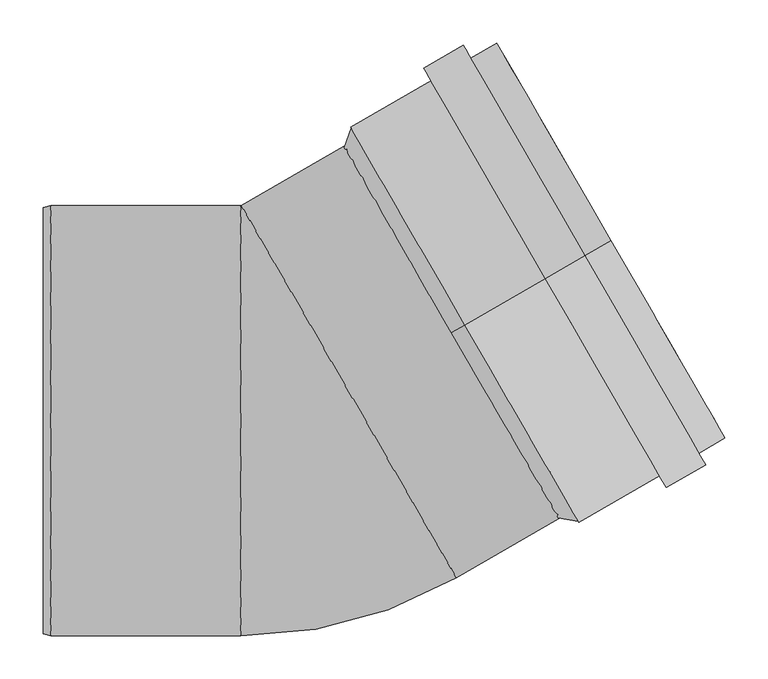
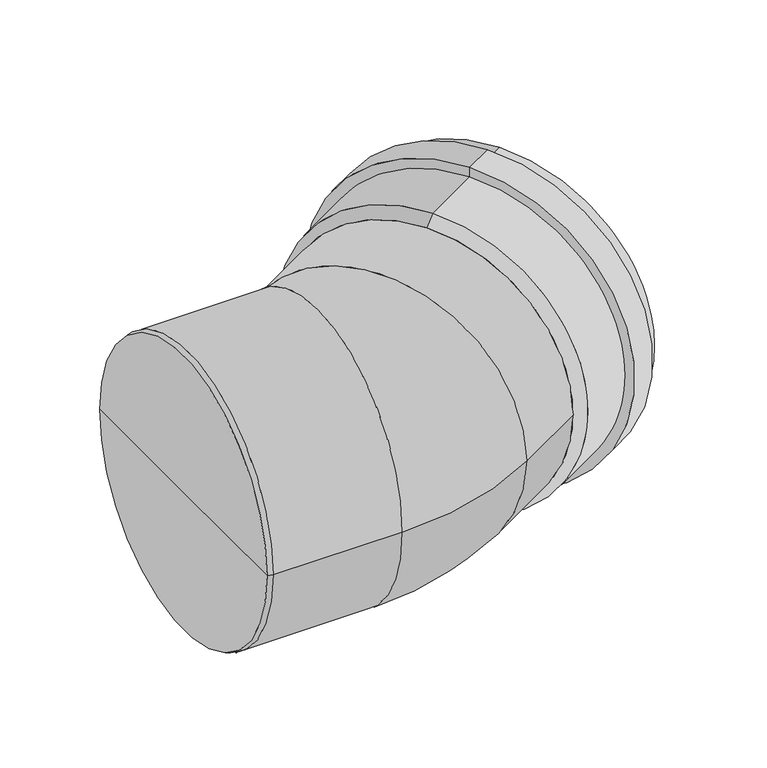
"""IFC4 building model written with IfcOpenShell, lengths in millimetres: pipe fitting geometry, OSMA_KG2000_PPKGB : Koleno 30°."""

from ifc_helpers import new_model, si_unit, point, frame, origin, place, context, project, spatial, polyline, circle_curve, ellipse_curve, trimmed, source, transform, mapped, element, save
from ifc_brep_helpers import plane_surface, cylinder_surface, revolved_surface, advanced_brep


def pipe_fitting_3dc73521(model_context):
    return source(origin(), model_context, "Body", "AdvancedBrep", [
        advanced_brep(
        [(193.123665, 111.5, 250.0), (193.123665, 111.5, -250.0), (362.8646442, 209.5, -250.0), (362.8646442, 209.5, 250.0), (286.6544087, 165.5, 265.3), (286.6544087, 165.5, -265.3), (193.123665, 111.5, -265.3), (193.123665, 111.5, 265.3), (286.6544087, 165.5, 282.5), (286.6544087, 165.5, -282.5), (332.5537551, 192.0, 282.5), (332.5537551, 192.0, -282.5), (332.5537551, 192.0, 265.3), (332.5537551, 192.0, -265.3), (362.8646442, 209.5, 265.3), (362.8646442, 209.5, -265.3), (177.5352078, 102.5, 234.7), (177.5352078, 102.5, -234.7), (177.5352078, 102.5, 250.0), (177.5352078, 102.5, -250.0)],
        [
            (0, 1, circle_curve(frame((193.123665, 111.5, 0.0), z_axis=(-0.8660254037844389, -0.4999999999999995, 0.0), x_axis=(0.0, 0.0, -1.0)), 250.0)),
            (1, 2),
            (2, 3, circle_curve(frame((362.8646442, 209.5, 0.0), z_axis=(0.8660254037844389, 0.4999999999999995, 0.0), x_axis=(0.0, 0.0, -1.0)), 250.0)),
            (3, 0),
            (1, 0, circle_curve(frame((193.123665, 111.5, 0.0), z_axis=(-0.8660254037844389, -0.4999999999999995, 0.0), x_axis=(0.0, 0.0, -1.0)), 250.0)),
            (3, 2, circle_curve(frame((362.8646442, 209.5, 0.0), z_axis=(0.8660254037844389, 0.4999999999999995, 0.0), x_axis=(0.0, 0.0, -1.0)), 250.0)),
            (4, 5, circle_curve(frame((286.6544087, 165.5, 0.0), z_axis=(-0.8660254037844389, -0.4999999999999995, 0.0), x_axis=(0.0, 0.0, -1.0)), 265.3)),
            (5, 6),
            (6, 7, circle_curve(frame((193.123665, 111.5, 0.0), z_axis=(0.8660254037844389, 0.4999999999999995, 0.0), x_axis=(0.0, 0.0, -1.0)), 265.3)),
            (7, 4),
            (5, 4, circle_curve(frame((286.6544087, 165.5, 0.0), z_axis=(-0.8660254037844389, -0.4999999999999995, 0.0), x_axis=(0.0, 0.0, -1.0)), 265.3)),
            (7, 6, circle_curve(frame((193.123665, 111.5, 0.0), z_axis=(0.8660254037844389, 0.4999999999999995, 0.0), x_axis=(0.0, 0.0, -1.0)), 265.3)),
            (8, 9, circle_curve(frame((286.6544087, 165.5, 0.0), z_axis=(-0.8660254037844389, -0.4999999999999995, 0.0), x_axis=(0.0, 0.0, -1.0)), 282.5)),
            (9, 5),
            (4, 8),
            (9, 8, circle_curve(frame((286.6544087, 165.5, 0.0), z_axis=(-0.8660254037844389, -0.4999999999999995, 0.0), x_axis=(0.0, 0.0, -1.0)), 282.5)),
            (10, 11, circle_curve(frame((332.5537551, 192.0, 0.0), z_axis=(-0.8660254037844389, -0.4999999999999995, 0.0), x_axis=(0.0, 0.0, -1.0)), 282.5)),
            (11, 9),
            (8, 10),
            (11, 10, circle_curve(frame((332.5537551, 192.0, 0.0), z_axis=(-0.8660254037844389, -0.4999999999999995, 0.0), x_axis=(0.0, 0.0, -1.0)), 282.5)),
            (12, 13, circle_curve(frame((332.5537551, 192.0, 0.0), z_axis=(-0.8660254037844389, -0.4999999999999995, 0.0), x_axis=(0.0, 0.0, -1.0)), 265.3)),
            (13, 11),
            (10, 12),
            (13, 12, circle_curve(frame((332.5537551, 192.0, 0.0), z_axis=(-0.8660254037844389, -0.4999999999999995, 0.0), x_axis=(0.0, 0.0, -1.0)), 265.3)),
            (14, 15, circle_curve(frame((362.8646442, 209.5, 0.0), z_axis=(-0.8660254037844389, -0.4999999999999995, 0.0), x_axis=(0.0, 0.0, -1.0)), 265.3)),
            (15, 13),
            (12, 14),
            (15, 14, circle_curve(frame((362.8646442, 209.5, 0.0), z_axis=(-0.8660254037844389, -0.4999999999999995, 0.0), x_axis=(0.0, 0.0, -1.0)), 265.3)),
            (2, 15),
            (14, 3),
            (16, 17, circle_curve(frame((177.5352078, 102.5, 0.0), z_axis=(-0.8660254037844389, -0.4999999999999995, 0.0), x_axis=(0.0, 0.0, -1.0)), 234.7)),
            (17, 1),
            (0, 16),
            (17, 16, circle_curve(frame((177.5352078, 102.5, 0.0), z_axis=(-0.8660254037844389, -0.4999999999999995, 0.0), x_axis=(0.0, 0.0, -1.0)), 234.7)),
            (18, 19, circle_curve(frame((177.5352078, 102.5, 0.0), z_axis=(-0.8660254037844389, -0.4999999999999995, 0.0), x_axis=(0.0, 0.0, -1.0)), 250.0)),
            (19, 17),
            (16, 18),
            (19, 18, circle_curve(frame((177.5352078, 102.5, 0.0), z_axis=(-0.8660254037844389, -0.4999999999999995, 0.0), x_axis=(0.0, 0.0, -1.0)), 250.0)),
            (6, 19),
            (18, 7),
        ],
        [
            revolved_surface(polyline([(362.8646442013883, 209.49999999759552, -250.0), (193.1236650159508, 111.49999997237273, -250.0)]), (2674.6971333, 1544.2371099, 0.0), (0.8660254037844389, 0.4999999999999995, 0.0)),
            cylinder_surface(frame((2674.6971333, 1544.2371099, 0.0), z_axis=(0.8660254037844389, 0.4999999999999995, 0.0), x_axis=(0.0, 0.0, -1.0)), 265.3),
            plane_surface(frame((286.6544087, 165.5, 0.0), z_axis=(-0.8660254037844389, -0.4999999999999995, 0.0), x_axis=(0.0, 0.0, -1.0))),
            cylinder_surface(frame((2674.6971333, 1544.2371099, 0.0), z_axis=(0.8660254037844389, 0.4999999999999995, 0.0), x_axis=(0.0, 0.0, -1.0)), 282.5),
            plane_surface(frame((332.5537551, 192.0, 0.0), z_axis=(0.8660254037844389, 0.4999999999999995, 0.0), x_axis=(0.0, 0.0, -1.0))),
            plane_surface(frame((362.8646442, 209.5, 0.0), z_axis=(0.8660254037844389, 0.4999999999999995, 0.0), x_axis=(0.0, 0.0, -1.0))),
            revolved_surface(polyline([(193.123665, 111.5, -250.0), (177.5352078, 102.5, -234.7)]), (2674.6971333, 1544.2371099, 0.0), (0.8660254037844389, 0.4999999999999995, 0.0)),
            plane_surface(frame((177.5352078, 102.5, 0.0), z_axis=(-0.8660254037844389, -0.4999999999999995, 0.0), x_axis=(0.0, 0.0, -1.0))),
            revolved_surface(polyline([(177.5352078, 102.5, -250.0), (193.123665, 111.5, -265.3)]), (2674.6971333, 1544.2371099, 0.0), (0.8660254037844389, 0.4999999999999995, 0.0)),
        ],
        [
            (0, [[1, 2, 3, 4]]),
            (0, [[5, -4, 6, -2]]),
            (1, [[7, 8, 9, 10]]),
            (1, [[11, -10, 12, -8]]),
            (2, [[13, 14, -7, 15]]),
            (2, [[16, -15, -11, -14]]),
            (3, [[17, 18, -13, 19]]),
            (3, [[20, -19, -16, -18]]),
            (4, [[21, 22, -17, 23]]),
            (4, [[24, -23, -20, -22]]),
            (1, [[25, 26, -21, 27]]),
            (1, [[28, -27, -24, -26]]),
            (5, [[-3, 29, -25, 30]]),
            (5, [[-6, -30, -28, -29]]),
            (6, [[31, 32, -1, 33]]),
            (6, [[34, -33, -5, -32]]),
            (7, [[35, 36, -31, 37]]),
            (7, [[38, -37, -34, -36]]),
            (8, [[-9, 39, -35, 40]]),
            (8, [[-12, -40, -38, -39]]),
        ],
    ),
        advanced_brep(
        [(-66.6392219, 250.2009619, 0.0), (-67.3892219, 250.0, 0.0), (-67.3892219, -250.0, 0.0), (183.3607781, -182.81174, 0.0), (58.3607781, 33.6946109, 250.0), (58.3607781, 33.6946109, -250.0), (-297.0, 0.0, 0.0), (-297.0, 247.5884572, 0.0), (-297.0, -247.5884572, 0.0), (-288.0, 250.0, 0.0), (-288.0, -250.0, 0.0), (312.9275126, -108.0063509, 0.0), (62.9275126, 325.0063509, 0.0)],
        [
            (0, 1, circle_curve(frame((-67.3892219, 251.5, 0.0), z_axis=(0.0, 0.0, -1.0), x_axis=(0.0, -1.0, 0.0)), 1.5)),
            (1, 2, circle_curve(frame((-67.3892219, 0.0, 0.0), z_axis=(1.0, 0.0, 0.0), x_axis=(0.0, 1.0, 0.0)), 250.0)),
            (2, 3, circle_curve(frame((-67.3892219, 251.5, 0.0), z_axis=(0.0, 0.0, 1.0), x_axis=(0.0, -1.0, 0.0)), 501.5)),
            (3, 4, circle_curve(frame((58.3607781, 33.6946109, 0.0), z_axis=(-0.8660254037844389, -0.4999999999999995, 0.0), x_axis=(-0.4999999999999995, 0.8660254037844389, 0.0)), 250.0)),
            (4, 0, circle_curve(frame((58.3607781, 33.6946109, 0.0), z_axis=(-0.8660254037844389, -0.4999999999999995, 0.0), x_axis=(-0.4999999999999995, 0.8660254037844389, 0.0)), 250.0)),
            (0, 5, circle_curve(frame((58.3607781, 33.6946109, 0.0), z_axis=(-0.8660254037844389, -0.4999999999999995, 0.0), x_axis=(-0.4999999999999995, 0.8660254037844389, 0.0)), 250.0)),
            (5, 3, circle_curve(frame((58.3607781, 33.6946109, 0.0), z_axis=(-0.8660254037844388, -0.49999999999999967, 0.0), x_axis=(-0.49999999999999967, 0.8660254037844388, 0.0)), 250.0)),
            (2, 1, circle_curve(frame((-67.3892219, 0.0, 0.0), z_axis=(1.0, 0.0, 0.0), x_axis=(0.0, 1.0, 0.0)), 250.0)),
            (6, 7),
            (7, 8, circle_curve(frame((-297.0, 0.0, 0.0), z_axis=(-1.0, 0.0, 0.0), x_axis=(0.0, 1.0, 0.0)), 247.5884572)),
            (8, 6),
            (8, 7, circle_curve(frame((-297.0, 0.0, 0.0), z_axis=(-1.0, 0.0, 0.0), x_axis=(0.0, 1.0, 0.0)), 247.5884572)),
            (7, 9),
            (9, 10, circle_curve(frame((-288.0, 0.0, 0.0), z_axis=(-1.0, 0.0, 0.0), x_axis=(0.0, 1.0, 0.0)), 250.0)),
            (10, 8),
            (10, 9, circle_curve(frame((-288.0, 0.0, 0.0), z_axis=(-1.0, 0.0, 0.0), x_axis=(0.0, 1.0, 0.0)), 250.0)),
            (9, 1),
            (2, 10),
            (11, 12, circle_curve(frame((187.9275126, 108.5, 0.0), z_axis=(0.8660254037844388, 0.49999999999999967, 0.0), x_axis=(-0.49999999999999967, 0.8660254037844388, 0.0)), 250.0)),
            (12, 11, circle_curve(frame((187.9275126, 108.5, 0.0), z_axis=(0.8660254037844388, 0.49999999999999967, 0.0), x_axis=(-0.49999999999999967, 0.8660254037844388, 0.0)), 250.0)),
            (12, 0),
            (3, 11),
        ],
        [
            revolved_surface(trimmed(ellipse_curve(frame((-67.3892219, 0.0, 0.0), z_axis=(-1.0, 0.0, 0.0), x_axis=(0.0, 1.0, 0.0)), 250.0, 250.0), [point((-67.3892219, -250.0, 0.0))], [point((-67.3892219, 250.0, 0.0))], True, "CARTESIAN"), (-67.3892219, 251.5, 0.0), (0.0, 0.0, 1.0)),
            revolved_surface(trimmed(ellipse_curve(frame((-67.3892219, 0.0, 0.0), z_axis=(-1.0, 0.0, 0.0), x_axis=(0.0, 1.0, 0.0)), 250.0, 250.0), [point((-67.3892219, 250.0, 0.0))], [point((-67.3892219, -250.0, 0.0))], True, "CARTESIAN"), (-67.3892219, 251.5, 0.0), (0.0, 0.0, 1.0)),
            plane_surface(frame((-297.0, 0.0, 0.0), z_axis=(-1.0, 0.0, 0.0), x_axis=(0.0, 1.0, 0.0))),
            revolved_surface(polyline([(-288.0, 250.0, 0.0), (-297.0, 247.5884572, 0.0)]), (331.0587718, 0.0, 0.0), (-1.0, 0.0, 0.0)),
            cylinder_surface(frame((331.0587718, 0.0, 0.0), z_axis=(-1.0, 0.0, 0.0), x_axis=(0.0, 1.0, 0.0)), 250.0),
            plane_surface(frame((187.9275126, 108.5, 0.0), z_axis=(0.8660254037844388, 0.49999999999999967, 0.0), x_axis=(0.0, 0.0, 1.0))),
            cylinder_surface(frame((58.3607781, 33.6946109, 0.0), z_axis=(-0.8660254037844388, -0.49999999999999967, 0.0), x_axis=(-0.49999999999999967, 0.8660254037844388, 0.0)), 250.0),
        ],
        [
            (0, [[1, 2, 3, 4, 5]]),
            (1, [[-1, 6, 7, -3, 8]]),
            (2, [[9, 10, 11]]),
            (2, [[-9, -11, 12]]),
            (3, [[-10, 13, 14, 15]]),
            (3, [[-12, -15, 16, -13]]),
            (4, [[-14, 17, -8, 18]]),
            (4, [[-16, -18, -2, -17]]),
            (5, [[19, 20]]),
            (6, [[-20, 21, -5, -4, 22]]),
            (6, [[-19, -22, -7, -6, -21]]),
        ],
    ),
    ])


if __name__ == "__main__":
    model = new_model("IFC4")
    model_context = context("Model", 3, world=origin())
    ifc_project = project(units=[si_unit("LENGTHUNIT", "METRE", prefix="MILLI")], contexts=[model_context])
    site = spatial("IfcSite", under=ifc_project)
    building = spatial("IfcBuilding", under=site)
    placement = place(None, origin())
    pipe_fitting_shape = pipe_fitting_3dc73521(model_context)
    element("IfcPipeFitting", 1, ObjectType="OSMA_KG2000_PPKGB : Koleno 30°", at=placement, inside=building, context=model_context, shape_type="MappedRepresentation", body=[
        mapped(pipe_fitting_shape, transform((0.0, 0.0, 0.0), x_axis=(1.0, 0.0, 0.0), y_axis=(0.0, 1.0, 0.0), z_axis=(0.0, 0.0, 1.0))),
    ])
    save(model, "model.ifc")
